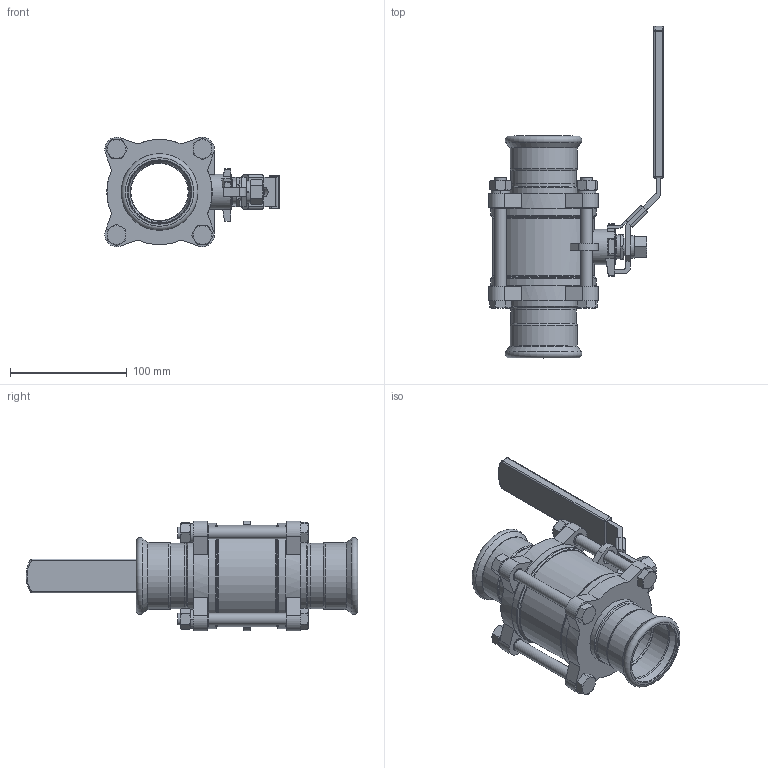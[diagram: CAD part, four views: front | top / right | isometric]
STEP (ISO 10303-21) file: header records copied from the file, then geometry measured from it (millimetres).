
FILE_DESCRIPTION(('STEP AP214'),'1');
FILE_NAME('2.stp','2025-03-26T07:36:46',(' '),(' '),'Spatial InterOp 3D',' ',' ');
FILE_SCHEMA(('AUTOMOTIVE_DESIGN { 1 0 10303 214 1 1 1 1 }'));
Length unit declared in the file: millimetre
Products named in the file (20): 3PC卡压球阀2; 格兰; 填料; 小片; 阀杆; 球; 半截接头; 阀盖; 阀体; 阀座; 垫圈 ： 单圈弹簧 - M10.0 x 2.6; 螺母 ： 标准 - M10.0 x 8.4; 螺栓 ： 六角头 - M10.0 x 105.0; 垫圈 ： 单圈弹簧 - M12.0 x 3.1; 螺母 ： 标准 - M12.0 x 10.8; 锁扣; 手柄套; 手柄
Assembly tree (28 placements, depth 2):
  3PC卡压球阀2
    格兰
    填料
    小片
    阀杆
    球
    半截接头
    阀盖
    阀体
    半截接头
    阀盖
    阀座
    垫圈 ： 单圈弹簧 - M10.0 x 2.6  x4
    螺母 ： 标准 - M10.0 x 8.4  x4
    螺栓 ： 六角头 - M10.0 x 105.0  x4
    垫圈 ： 单圈弹簧 - M12.0 x 3.1
    螺母 ： 标准 - M12.0 x 10.8
    锁扣
    手柄套
    手柄
Bounding box: 149.07 x 283.76 x 93.54 mm (x, y, z)
Volume: 508651.9 mm3; surface area: 226600.6 mm2
Topology: 29 solids, 29 shells, 534 faces, 1196 edges, 737 vertices
Faces by surface type: plane 255, cone 121, cylinder 118, torus 25, bspline 10, sphere 5
Full cylindrical faces by diameter (mm): 7.5 x1, 10 x8, 11 x8, 12 x1, 12.8 x2, 15 x2, 15.2 x1, 15.5 x1, 15.7 x1, 19 x2, 20 x1, 20.5 x1, 20.8 x1, 20.9 x1, 22.1 x1, 30 x1, 49 x1, 50 x4, 53 x2, 54 x2, 54.3 x2, 55 x2, 56 x4, 57.3 x2, 58 x2, 78 x1, 78.5 x4, 82 x4, 86.5 x1, 90 x4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
Entity records: 15203 total; most frequent: CARTESIAN_POINT 2838, DIRECTION 1884, ORIENTED_EDGE 1572, EDGE_CURVE 786, AXIS2_PLACEMENT_3D 766, EDGE_LOOP 590, VERTEX_POINT 560, FACE_OUTER_BOUND 485
